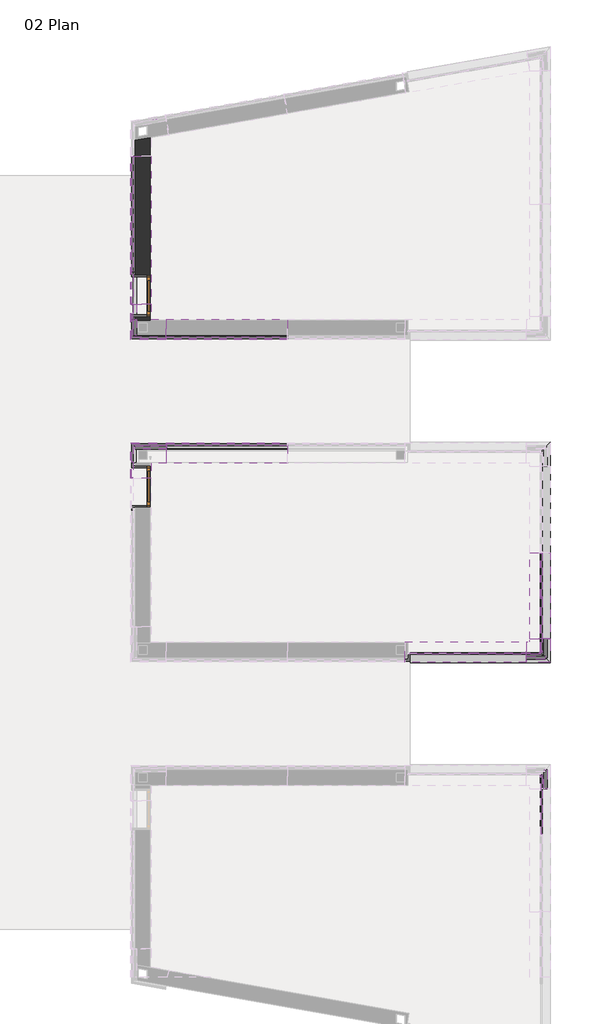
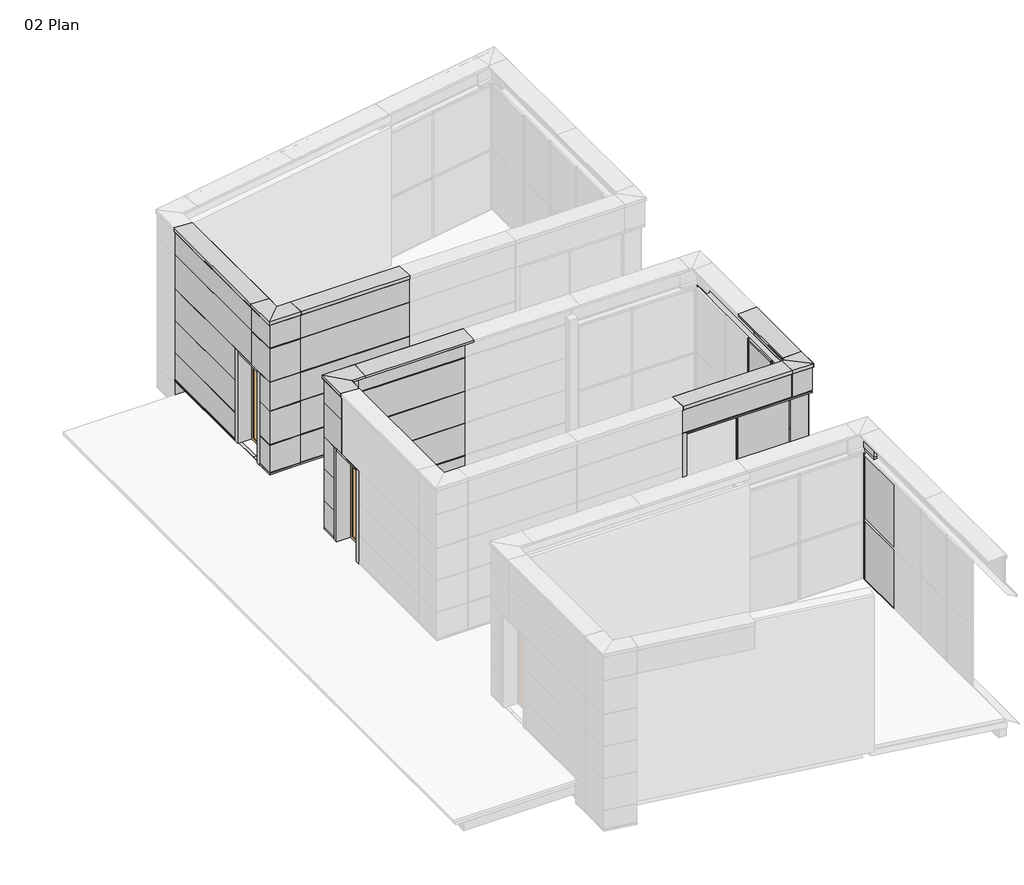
# One storey, part 3 of 6: 74 plates, 24 members, 2 doors, 1 wall.
"""IFC4 building model written with IfcOpenShell, lengths in millimetres."""

from ifc_helpers import new_model, si_unit, origin, place, context, project, spatial, faceted_brep, transform, mapped, element, save
from components import door_1100x3068mm_1200x3168mm_a6e2f689, door_1100x3068mm_1200x3168mm_20ba0fd4, rectangular_mullion_850a0757, rectangular_mullion_d40b3f67, rectangular_mullion_dec3059a, rectangular_mullion_8c95c825, rectangular_mullion_d3216087, rectangular_mullion_e5955efa, rectangular_mullion_9c751ba5, rectangular_mullion_915eebd7, rectangular_mullion_7ea7b6c0, rectangular_mullion_ccb72c30, rectangular_mullion_8513d4ac, rectangular_mullion_322f0c36, rectangular_mullion_c2dba91a, rectangular_mullion_68da8427, rectangular_mullion_97cb3080, rectangular_mullion_081bc27d, plate_0b95a8c3, plate_11fb3f57, plate_63cc7be1, plate_6f84e525, plate_a4e683b8, plate_0ee140ac, plate_9264498c, plate_13683502, plate_91b26778, plate_f3a990c7, plate_2f1254bd, plate_0a25c81b, plate_1f021189, plate_7cec9b98, plate_a03504c6, plate_4e06be92, plate_b156121b, plate_823f188f, plate_5f059f00, plate_b266ea8f, plate_59370a8b, plate_77bf08a6, plate_ef928dc7, plate_c888fad8, plate_ef003f44, plate_2ebe5be9, plate_9de24f4d, plate_d93fc1ee, plate_bb86a2eb, plate_518c333e, empty_system_panel_empty_c6afd72d, empty_system_panel_empty_630b4419, empty_system_panel_empty_4e5cc90e, empty_system_panel_empty_b9b0326a, empty_system_panel_empty_57776d45, empty_system_panel_empty_060dda74, empty_system_panel_empty_13eba526, empty_system_panel_empty_12fe3e08, empty_system_panel_empty_9adf59d3, empty_system_panel_empty_1164fc18, empty_system_panel_empty_1ef4080b, empty_system_panel_empty_53732c6d, empty_system_panel_empty_5eeb5584, empty_system_panel_empty_b2decce4, empty_system_panel_empty_352b8546, empty_system_panel_empty_87de0121, empty_system_panel_empty_e92f2667, empty_system_panel_empty_e2537cab, empty_system_panel_empty_c35a7bda, empty_system_panel_empty_f63fde6b, empty_system_panel_empty_f7b915c9, empty_system_panel_empty_2622fa27, empty_system_panel_empty_e6977389, empty_system_panel_empty_349d8383, empty_system_panel_empty_c0a390db, system_panel_1ba0b192, system_panel_15604cb6, system_panel_86827fa0, system_panel_7be301ce, system_panel_043df903, system_panel_e44423fa, system_panel_fa37fecd, system_panel_72380739

model = new_model("IFC4")

# Units and contexts
model_context = context("Model", 3, world=origin())
ifc_project = project(units=[si_unit("LENGTHUNIT", "METRE", prefix="MILLI")], contexts=[model_context])

# Site, building, storey
site = spatial("IfcSite", under=ifc_project)
building = spatial("IfcBuilding", under=site)
storey = spatial("IfcBuildingStorey", under=building, Name="02 Plan", Elevation=0.0)

# Doors
placement = place(None, origin())
door_1100x3068mm_1200x3168mm_shape = door_1100x3068mm_1200x3168mm_a6e2f689(model_context)
element("IfcDoor", 1, ObjectType="Door : 1100x3068mm (1200x3168mm)", at=placement, inside=storey, context=model_context, shape_type="MappedRepresentation", body=[
    mapped(door_1100x3068mm_1200x3168mm_shape, transform((-3774.3384937, 1935.5895435, 0.0), x_axis=(0.0, 1.0, 0.0), y_axis=(-1.0, 0.0, 0.0), z_axis=(0.0, 0.0, 1.0))),
])
door_1100x3068mm_1200x3168mm_2_shape = door_1100x3068mm_1200x3168mm_20ba0fd4(model_context)
element("IfcDoor", 2, ObjectType="Door : 1100x3068mm (1200x3168mm)", at=placement, inside=storey, context=model_context, shape_type="MappedRepresentation", body=[
    mapped(door_1100x3068mm_1200x3168mm_2_shape, transform((-3774.3384937, 7555.5895435, 0.0), x_axis=(0.0, -1.0, 0.0), y_axis=(1.0, 0.0, 0.0), z_axis=(0.0, 0.0, 1.0))),
])

# Members
rectangular_mullion_shape = rectangular_mullion_850a0757(model_context)
element("IfcMember", 3, ObjectType="Rectangular Mullion : Mullion_Curtain Wall_Generic Showcase_50x50mm", at=placement, inside=storey, context=model_context, shape_type="MappedRepresentation", body=[
    mapped(rectangular_mullion_shape, transform((8000.6615063, -2954.4104565, -100.0), x_axis=(0.0, -1.0, 0.0), y_axis=(-1.0, 0.0, 0.0), z_axis=(0.0, 0.0, -1.0))),
])
element("IfcMember", 4, ObjectType="Rectangular Mullion : Mullion_Curtain Wall_Generic Showcase_50x50mm", at=placement, inside=storey, context=model_context, shape_type="MappedRepresentation", body=[
    mapped(rectangular_mullion_shape, transform((7950.6615063, -3004.4104565, 2075.0), x_axis=(1.0, 0.0, 0.0), y_axis=(0.0, 1.0, 0.0), z_axis=(0.0, 0.0, 1.0))),
])
rectangular_mullion_2_shape = rectangular_mullion_d40b3f67(model_context)
element("IfcMember", 5, ObjectType="Rectangular Mullion : Mullion_Curtain Wall_Generic Showcase_50x50mm", at=placement, inside=storey, context=model_context, shape_type="MappedRepresentation", body=[
    mapped(rectangular_mullion_2_shape, transform((8000.6615063, -1329.4104565, -100.0), x_axis=(0.0, -1.0, 0.0), y_axis=(-1.0, 0.0, 0.0), z_axis=(0.0, 0.0, -1.0))),
])
element("IfcMember", 6, ObjectType="Rectangular Mullion : Mullion_Curtain Wall_Generic Showcase_50x50mm", at=placement, inside=storey, context=model_context, shape_type="MappedRepresentation", body=[
    mapped(rectangular_mullion_2_shape, transform((8000.6615063, -4.4104565, -100.0), x_axis=(0.0, -1.0, 0.0), y_axis=(-1.0, 0.0, 0.0), z_axis=(0.0, 0.0, -1.0))),
])
element("IfcMember", 7, ObjectType="Rectangular Mullion : Mullion_Curtain Wall_Generic Showcase_50x50mm", at=placement, inside=storey, context=model_context, shape_type="MappedRepresentation", body=[
    mapped(rectangular_mullion_2_shape, transform((5850.6615063, -3004.4104565, -100.0), x_axis=(-1.0, 0.0, 0.0), y_axis=(0.0, 1.0, 0.0), z_axis=(0.0, 0.0, -1.0))),
])
rectangular_mullion_3_shape = rectangular_mullion_dec3059a(model_context)
element("IfcMember", 8, ObjectType="Rectangular Mullion : Mullion_Curtain Wall_Generic Showcase_50x100mm", at=placement, inside=storey, context=model_context, shape_type="MappedRepresentation", body=[
    mapped(rectangular_mullion_3_shape, transform((5825.6615063, -3004.4104565, -100.0), x_axis=(0.0, 0.0, -1.0), y_axis=(0.0, 1.0, 0.0), z_axis=(1.0, 0.0, 0.0))),
])
rectangular_mullion_4_shape = rectangular_mullion_8c95c825(model_context)
element("IfcMember", 9, ObjectType="Rectangular Mullion : Mullion_Curtain Wall_Generic Showcase_50x50mm", at=placement, inside=storey, context=model_context, shape_type="MappedRepresentation", body=[
    mapped(rectangular_mullion_4_shape, transform((4100.6615063, -3004.4104565, 2075.0), x_axis=(0.0, 0.0, 1.0), y_axis=(0.0, 1.0, 0.0), z_axis=(-1.0, 0.0, 0.0))),
])
rectangular_mullion_5_shape = rectangular_mullion_d3216087(model_context)
element("IfcMember", 10, ObjectType="Rectangular Mullion : Mullion_Curtain Wall_Generic Showcase_50x50mm", at=placement, inside=storey, context=model_context, shape_type="MappedRepresentation", body=[
    mapped(rectangular_mullion_5_shape, transform((8000.6615063, -1304.4104565, 4350.0), x_axis=(0.0, 0.0, 1.0), y_axis=(-1.0, 0.0, 0.0), z_axis=(0.0, -1.0, 0.0))),
])
rectangular_mullion_6_shape = rectangular_mullion_e5955efa(model_context)
element("IfcMember", 11, ObjectType="Rectangular Mullion : Mullion_Curtain Wall_Generic Showcase_50x100mm", at=placement, inside=storey, context=model_context, shape_type="MappedRepresentation", body=[
    mapped(rectangular_mullion_6_shape, transform((8000.6615063, -29.4104565, -100.0), x_axis=(0.0, 0.0, -1.0), y_axis=(-1.0, 0.0, 0.0), z_axis=(0.0, 1.0, 0.0))),
])
rectangular_mullion_7_shape = rectangular_mullion_9c751ba5(model_context)
element("IfcMember", 12, ObjectType="Rectangular Mullion : Mullion_Curtain Wall_Generic Showcase_50x50mm", at=placement, inside=storey, context=model_context, shape_type="MappedRepresentation", body=[
    mapped(rectangular_mullion_7_shape, transform((8000.6615063, -1304.4104565, 2075.0), x_axis=(0.0, 0.0, 1.0), y_axis=(-1.0, 0.0, 0.0), z_axis=(0.0, -1.0, 0.0))),
])
rectangular_mullion_8_shape = rectangular_mullion_915eebd7(model_context)
element("IfcMember", 13, ObjectType="Rectangular Mullion : Mullion_Curtain Wall_Generic Showcase_50x50mm", at=placement, inside=storey, context=model_context, shape_type="MappedRepresentation", body=[
    mapped(rectangular_mullion_8_shape, transform((7950.6615063, -3004.4104565, 4350.0), x_axis=(1.0, 0.0, 0.0), y_axis=(0.0, 1.0, 0.0), z_axis=(0.0, 0.0, 1.0))),
])
element("IfcMember", 14, ObjectType="Rectangular Mullion : Mullion_Curtain Wall_Generic Showcase_50x50mm", at=placement, inside=storey, context=model_context, shape_type="MappedRepresentation", body=[
    mapped(rectangular_mullion_8_shape, transform((8000.6615063, -6554.4104565, 4350.0), x_axis=(0.0, 1.0, 0.0), y_axis=(-1.0, 0.0, 0.0), z_axis=(0.0, 0.0, 1.0))),
])
element("IfcMember", 15, ObjectType="Rectangular Mullion : Mullion_Curtain Wall_Generic Showcase_50x50mm", at=placement, inside=storey, context=model_context, shape_type="MappedRepresentation", body=[
    mapped(rectangular_mullion_8_shape, transform((8000.6615063, -2954.4104565, 2075.0), x_axis=(0.0, -1.0, 0.0), y_axis=(-1.0, 0.0, 0.0), z_axis=(0.0, 0.0, -1.0))),
])
rectangular_mullion_9_shape = rectangular_mullion_7ea7b6c0(model_context)
element("IfcMember", 16, ObjectType="Rectangular Mullion : Mullion_Curtain Wall_Generic Showcase_50x50mm", at=placement, inside=storey, context=model_context, shape_type="MappedRepresentation", body=[
    mapped(rectangular_mullion_9_shape, transform((8000.6615063, -1329.4104565, 2075.0), x_axis=(0.0, -1.0, 0.0), y_axis=(-1.0, 0.0, 0.0), z_axis=(0.0, 0.0, -1.0))),
])
element("IfcMember", 17, ObjectType="Rectangular Mullion : Mullion_Curtain Wall_Generic Showcase_50x50mm", at=placement, inside=storey, context=model_context, shape_type="MappedRepresentation", body=[
    mapped(rectangular_mullion_9_shape, transform((8000.6615063, -4.4104565, 2075.0), x_axis=(0.0, -1.0, 0.0), y_axis=(-1.0, 0.0, 0.0), z_axis=(0.0, 0.0, -1.0))),
])
element("IfcMember", 18, ObjectType="Rectangular Mullion : Mullion_Curtain Wall_Generic Showcase_50x50mm", at=placement, inside=storey, context=model_context, shape_type="MappedRepresentation", body=[
    mapped(rectangular_mullion_9_shape, transform((5850.6615063, -3004.4104565, 2075.0), x_axis=(-1.0, 0.0, 0.0), y_axis=(0.0, 1.0, 0.0), z_axis=(0.0, 0.0, -1.0))),
])
rectangular_mullion_10_shape = rectangular_mullion_ccb72c30(model_context)
element("IfcMember", 19, ObjectType="Rectangular Mullion : Mullion_Curtain Wall_Generic Showcase_50x50mm", at=placement, inside=storey, context=model_context, shape_type="MappedRepresentation", body=[
    mapped(rectangular_mullion_10_shape, transform((5875.6615063, -3004.4104565, 4350.0), x_axis=(0.0, 0.0, 1.0), y_axis=(0.0, 1.0, 0.0), z_axis=(-1.0, 0.0, 0.0))),
])
rectangular_mullion_11_shape = rectangular_mullion_8513d4ac(model_context)
element("IfcMember", 20, ObjectType="Rectangular Mullion : Mullion_Curtain Wall_Generic Showcase_50x100mm", at=placement, inside=storey, context=model_context, shape_type="MappedRepresentation", body=[
    mapped(rectangular_mullion_11_shape, transform((7900.6615063, -3004.4104565, -100.0), x_axis=(0.0, 0.0, -1.0), y_axis=(0.0, 1.0, 0.0), z_axis=(1.0, 0.0, 0.0))),
])
rectangular_mullion_12_shape = rectangular_mullion_322f0c36(model_context)
element("IfcMember", 21, ObjectType="Rectangular Mullion : Mullion_Curtain Wall_Generic Showcase_50x50mm", at=placement, inside=storey, context=model_context, shape_type="MappedRepresentation", body=[
    mapped(rectangular_mullion_12_shape, transform((5875.6615063, -3004.4104565, 2075.0), x_axis=(0.0, 0.0, 1.0), y_axis=(0.0, 1.0, 0.0), z_axis=(-1.0, 0.0, 0.0))),
])
element("IfcMember", 22, ObjectType="Rectangular Mullion : Mullion_Curtain Wall_Generic Showcase_50x50mm", at=placement, inside=storey, context=model_context, shape_type="MappedRepresentation", body=[
    mapped(rectangular_mullion_shape, transform((8000.6615063, -6554.4104565, 2075.0), x_axis=(0.0, 1.0, 0.0), y_axis=(-1.0, 0.0, 0.0), z_axis=(0.0, 0.0, 1.0))),
])
rectangular_mullion_13_shape = rectangular_mullion_c2dba91a(model_context)
element("IfcMember", 23, ObjectType="Rectangular Mullion : Mullion_Curtain Wall_Generic Showcase_50x100mm", at=placement, inside=storey, context=model_context, shape_type="MappedRepresentation", body=[
    mapped(rectangular_mullion_13_shape, transform((8000.6615063, -6604.4104565, -100.0), x_axis=(0.0, 0.0, -1.0), y_axis=(-1.0, 0.0, 0.0), z_axis=(0.0, 1.0, 0.0))),
])
rectangular_mullion_14_shape = rectangular_mullion_68da8427(model_context)
element("IfcMember", 24, ObjectType="Rectangular Mullion : Mullion_Curtain Wall_Generic Showcase_50x50mm", at=placement, inside=storey, context=model_context, shape_type="MappedRepresentation", body=[
    mapped(rectangular_mullion_14_shape, transform((8000.6615063, -2904.4104565, 4350.0), x_axis=(0.0, 0.0, 1.0), y_axis=(-1.0, 0.0, 0.0), z_axis=(0.0, -1.0, 0.0))),
])
rectangular_mullion_15_shape = rectangular_mullion_97cb3080(model_context)
element("IfcMember", 25, ObjectType="Rectangular Mullion : Mullion_Curtain Wall_Generic Showcase_50x100mm", at=placement, inside=storey, context=model_context, shape_type="MappedRepresentation", body=[
    mapped(rectangular_mullion_15_shape, transform((8000.6615063, -1354.4104565, -100.0), x_axis=(0.0, 0.0, -1.0), y_axis=(-1.0, 0.0, 0.0), z_axis=(0.0, 1.0, 0.0))),
])
rectangular_mullion_16_shape = rectangular_mullion_081bc27d(model_context)
element("IfcMember", 26, ObjectType="Rectangular Mullion : Mullion_Curtain Wall_Generic Showcase_50x50mm", at=placement, inside=storey, context=model_context, shape_type="MappedRepresentation", body=[
    mapped(rectangular_mullion_16_shape, transform((8000.6615063, -2904.4104565, 2075.0), x_axis=(0.0, 0.0, 1.0), y_axis=(-1.0, 0.0, 0.0), z_axis=(0.0, -1.0, 0.0))),
])

# Plates
plate_shape = plate_0b95a8c3(model_context)
element("IfcPlate", 27, ObjectType="Trimo_Qbiss Screen_L Corner Panel-HORIZONTAL : HR - B", at=placement, inside=storey, context=model_context, shape_type="MappedRepresentation", body=[
    mapped(plate_shape, transform((-3999.3384937, 2869.3395435, 1012.5), x_axis=(0.0, 1.0, 0.0), y_axis=(-1.0, 0.0, 0.0), z_axis=(0.0, 0.0, 1.0))),
])
element("IfcPlate", 28, ObjectType="Trimo_Qbiss Screen_L Corner Panel-HORIZONTAL : HR - B", at=placement, inside=storey, context=model_context, shape_type="MappedRepresentation", body=[
    mapped(plate_shape, transform((-3999.3384937, 2869.3395435, 2125.0), x_axis=(0.0, 1.0, 0.0), y_axis=(-1.0, 0.0, 0.0), z_axis=(0.0, 0.0, 1.0))),
])
plate_2_shape = plate_11fb3f57(model_context)
element("IfcPlate", 29, ObjectType="Trimo_Qbiss Screen_L Corner Panel-HORIZONTAL : HR - B", at=placement, inside=storey, context=model_context, shape_type="MappedRepresentation", body=[
    mapped(plate_2_shape, transform((8100.6615063, -2823.1604565, 4410.0), x_axis=(0.0, -1.0, 0.0), y_axis=(1.0, 0.0, 0.0), z_axis=(0.0, 0.0, 1.0))),
])
plate_3_shape = plate_63cc7be1(model_context)
element("IfcPlate", 30, ObjectType="Trimo_Qbiss Screen_L Corner Panel-HORIZONTAL : HR - B", at=placement, inside=storey, context=model_context, shape_type="MappedRepresentation", body=[
    mapped(plate_3_shape, transform((-3999.3384937, 2639.3395435, 4410.0), x_axis=(0.0, 1.0, 0.0), y_axis=(-1.0, 0.0, 0.0), z_axis=(0.0, 0.0, 1.0))),
])
plate_4_shape = plate_6f84e525(model_context)
element("IfcPlate", 31, ObjectType="Trimo_Qbiss Screen_L Corner Panel-HORIZONTAL : HR - B", at=placement, inside=storey, context=model_context, shape_type="MappedRepresentation", body=[
    mapped(plate_4_shape, transform((-3999.3384937, 2639.3395435, 3237.5), x_axis=(0.0, 1.0, 0.0), y_axis=(-1.0, 0.0, 0.0), z_axis=(0.0, 0.0, 1.0))),
])
element("IfcPlate", 32, ObjectType="Trimo_Qbiss Screen_L Corner Panel-HORIZONTAL : HR - B", at=placement, inside=storey, context=model_context, shape_type="MappedRepresentation", body=[
    mapped(plate_4_shape, transform((-3543.0884937, 6395.5895435, 3237.5), x_axis=(-1.0, 0.0, 0.0), y_axis=(0.0, -1.0, 0.0), z_axis=(0.0, 0.0, 1.0))),
])
plate_5_shape = plate_a4e683b8(model_context)
element("IfcPlate", 33, ObjectType="Trimo_Qbiss Screen_L Corner Panel-HORIZONTAL : HR - B", at=placement, inside=storey, context=model_context, shape_type="MappedRepresentation", body=[
    mapped(plate_5_shape, transform((-3999.3384937, 2869.3395435, 100.0), x_axis=(0.0, 1.0, 0.0), y_axis=(-1.0, 0.0, 0.0), z_axis=(0.0, 0.0, 1.0))),
])
element("IfcPlate", 34, ObjectType="Trimo_Qbiss Screen_L Corner Panel-HORIZONTAL : HR - B", at=placement, inside=storey, context=model_context, shape_type="MappedRepresentation", body=[
    mapped(plate_3_shape, transform((-3543.0884937, 6395.5895435, 4410.0), x_axis=(-1.0, 0.0, 0.0), y_axis=(0.0, -1.0, 0.0), z_axis=(0.0, 0.0, 1.0))),
])
plate_6_shape = plate_0ee140ac(model_context)
element("IfcPlate", 35, ObjectType="Trimo_Qbiss Screen_L Corner Panel-HORIZONTAL : HR - B", at=placement, inside=storey, context=model_context, shape_type="MappedRepresentation", body=[
    mapped(plate_6_shape, transform((-3543.0884937, 6395.5895435, 2240.0), x_axis=(-1.0, 0.0, 0.0), y_axis=(0.0, -1.0, 0.0), z_axis=(0.0, 0.0, 1.0))),
])
plate_7_shape = plate_9264498c(model_context)
element("IfcPlate", 36, ObjectType="Trimo_Qbiss Screen_L Corner Panel-HORIZONTAL : HR - B", at=placement, inside=storey, context=model_context, shape_type="MappedRepresentation", body=[
    mapped(plate_7_shape, transform((-3543.0884937, 6395.5895435, 1070.0), x_axis=(-1.0, 0.0, 0.0), y_axis=(0.0, -1.0, 0.0), z_axis=(0.0, 0.0, 1.0))),
])
plate_8_shape = plate_13683502(model_context)
element("IfcPlate", 37, ObjectType="Trimo_Qbiss Screen_L Corner Panel-HORIZONTAL : HR - B", at=placement, inside=storey, context=model_context, shape_type="MappedRepresentation", body=[
    mapped(plate_8_shape, transform((-3543.0884937, 6395.5895435, 100.0), x_axis=(-1.0, 0.0, 0.0), y_axis=(0.0, -1.0, 0.0), z_axis=(0.0, 0.0, 1.0))),
])
plate_9_shape = plate_91b26778(model_context)
element("IfcPlate", 38, ObjectType="Trimo_Qbiss Screen_L Corner Panel-HORIZONTAL : HR - B", at=placement, inside=storey, context=model_context, shape_type="MappedRepresentation", body=[
    mapped(plate_9_shape, transform((8100.6615063, -2823.1604565, -750.0), x_axis=(0.0, -1.0, 0.0), y_axis=(1.0, 0.0, 0.0), z_axis=(0.0, 0.0, 1.0))),
])
plate_10_shape = plate_f3a990c7(model_context)
element("IfcPlate", 39, ObjectType="Trimo_Qbiss Screen_Normal Panel-HORIZONTAL : HR - B", at=placement, inside=storey, context=model_context, shape_type="MappedRepresentation", body=[
    mapped(plate_10_shape, transform((-3999.3384937, 11355.7945251, -750.0), x_axis=(0.0, 1.0, 0.0), y_axis=(-1.0, 0.0, 0.0), z_axis=(0.0, 0.0, 1.0))),
])
plate_11_shape = plate_2f1254bd(model_context)
element("IfcPlate", 40, ObjectType="Trimo_Qbiss Screen_Normal Panel-HORIZONTAL : HR - B", at=placement, inside=storey, context=model_context, shape_type="MappedRepresentation", body=[
    mapped(plate_11_shape, transform((-1293.0884937, 3095.5895435, 4410.0), x_axis=(1.0, 0.0, 0.0), y_axis=(0.0, 1.0, 0.0), z_axis=(0.0, 0.0, 1.0))),
])
plate_12_shape = plate_0a25c81b(model_context)
element("IfcPlate", 41, ObjectType="Trimo_Qbiss Screen_Normal Panel-HORIZONTAL : HR - B", at=placement, inside=storey, context=model_context, shape_type="MappedRepresentation", body=[
    mapped(plate_12_shape, transform((-1293.0884937, 3095.5895435, 100.0), x_axis=(1.0, 0.0, 0.0), y_axis=(0.0, 1.0, 0.0), z_axis=(0.0, 0.0, 1.0))),
])
plate_13_shape = plate_1f021189(model_context)
element("IfcPlate", 42, ObjectType="Trimo_Qbiss Screen_Normal Panel-HORIZONTAL : HR - B", at=placement, inside=storey, context=model_context, shape_type="MappedRepresentation", body=[
    mapped(plate_13_shape, transform((-1299.3384937, 6395.5895435, 4410.0), x_axis=(-1.0, 0.0, 0.0), y_axis=(0.0, -1.0, 0.0), z_axis=(0.0, 0.0, 1.0))),
])
plate_14_shape = plate_7cec9b98(model_context)
element("IfcPlate", 43, ObjectType="Trimo_Qbiss Screen_Normal Panel-HORIZONTAL : HR - B", at=placement, inside=storey, context=model_context, shape_type="MappedRepresentation", body=[
    mapped(plate_14_shape, transform((-1299.3384937, 6395.5895435, 3237.5), x_axis=(-1.0, 0.0, 0.0), y_axis=(0.0, -1.0, 0.0), z_axis=(0.0, 0.0, 1.0))),
])
plate_15_shape = plate_a03504c6(model_context)
element("IfcPlate", 44, ObjectType="Trimo_Qbiss Screen_Normal Panel-HORIZONTAL : HR - B", at=placement, inside=storey, context=model_context, shape_type="MappedRepresentation", body=[
    mapped(plate_15_shape, transform((-1293.0884937, 3095.5895435, 2125.0), x_axis=(1.0, 0.0, 0.0), y_axis=(0.0, 1.0, 0.0), z_axis=(0.0, 0.0, 1.0))),
])
element("IfcPlate", 45, ObjectType="Trimo_Qbiss Screen_Normal Panel-HORIZONTAL : HR - B", at=placement, inside=storey, context=model_context, shape_type="MappedRepresentation", body=[
    mapped(plate_15_shape, transform((-1293.0884937, 3095.5895435, 1012.5), x_axis=(1.0, 0.0, 0.0), y_axis=(0.0, 1.0, 0.0), z_axis=(0.0, 0.0, 1.0))),
])
plate_16_shape = plate_4e06be92(model_context)
element("IfcPlate", 46, ObjectType="Trimo_Qbiss Screen_Normal Panel-HORIZONTAL : HR - B", at=placement, inside=storey, context=model_context, shape_type="MappedRepresentation", body=[
    mapped(plate_16_shape, transform((-1293.0884937, 3095.5895435, 3237.5), x_axis=(1.0, 0.0, 0.0), y_axis=(0.0, 1.0, 0.0), z_axis=(0.0, 0.0, 1.0))),
])
plate_17_shape = plate_b156121b(model_context)
element("IfcPlate", 47, ObjectType="Trimo_Qbiss Screen_Normal Panel-HORIZONTAL : HR - B", at=placement, inside=storey, context=model_context, shape_type="MappedRepresentation", body=[
    mapped(plate_17_shape, transform((8100.6615063, -1273.1604565, -750.0), x_axis=(0.0, -1.0, 0.0), y_axis=(1.0, 0.0, 0.0), z_axis=(0.0, 0.0, 1.0))),
])
plate_18_shape = plate_823f188f(model_context)
element("IfcPlate", 48, ObjectType="Trimo_Qbiss Screen_Normal Panel-HORIZONTAL : HR - B", at=placement, inside=storey, context=model_context, shape_type="MappedRepresentation", body=[
    mapped(plate_18_shape, transform((8100.6615063, -1273.1604565, 4410.0), x_axis=(0.0, -1.0, 0.0), y_axis=(1.0, 0.0, 0.0), z_axis=(0.0, 0.0, 1.0))),
])
plate_19_shape = plate_5f059f00(model_context)
element("IfcPlate", 49, ObjectType="Trimo_Qbiss Screen_Normal Panel-HORIZONTAL : HR - B", at=placement, inside=storey, context=model_context, shape_type="MappedRepresentation", body=[
    mapped(plate_19_shape, transform((-3999.3384937, 9965.0445251, 100.0), x_axis=(0.0, 1.0, 0.0), y_axis=(-1.0, 0.0, 0.0), z_axis=(0.0, 0.0, 1.0))),
])
plate_20_shape = plate_b266ea8f(model_context)
element("IfcPlate", 50, ObjectType="Trimo_Qbiss Screen_Normal Panel-HORIZONTAL : HR - B", at=placement, inside=storey, context=model_context, shape_type="MappedRepresentation", body=[
    mapped(plate_20_shape, transform((-3999.3384937, 9965.0445251, 2125.0), x_axis=(0.0, 1.0, 0.0), y_axis=(-1.0, 0.0, 0.0), z_axis=(0.0, 0.0, 1.0))),
])
element("IfcPlate", 51, ObjectType="Trimo_Qbiss Screen_Normal Panel-HORIZONTAL : HR - B", at=placement, inside=storey, context=model_context, shape_type="MappedRepresentation", body=[
    mapped(plate_20_shape, transform((-3999.3384937, 9965.0445251, 1012.5), x_axis=(0.0, 1.0, 0.0), y_axis=(-1.0, 0.0, 0.0), z_axis=(0.0, 0.0, 1.0))),
])
plate_21_shape = plate_59370a8b(model_context)
element("IfcPlate", 52, ObjectType="Trimo_Qbiss Screen_Normal Panel-HORIZONTAL : HR - B", at=placement, inside=storey, context=model_context, shape_type="MappedRepresentation", body=[
    mapped(plate_21_shape, transform((-3999.3384937, 9487.5445251, 3237.5), x_axis=(0.0, 1.0, 0.0), y_axis=(-1.0, 0.0, 0.0), z_axis=(0.0, 0.0, 1.0))),
])
plate_22_shape = plate_77bf08a6(model_context)
element("IfcPlate", 53, ObjectType="Trimo_Qbiss Screen_Normal Panel-HORIZONTAL : HR - B", at=placement, inside=storey, context=model_context, shape_type="MappedRepresentation", body=[
    mapped(plate_22_shape, transform((-3999.3384937, 9487.5445251, 4410.0), x_axis=(0.0, 1.0, 0.0), y_axis=(-1.0, 0.0, 0.0), z_axis=(0.0, 0.0, 1.0))),
])
plate_23_shape = plate_ef928dc7(model_context)
element("IfcPlate", 54, ObjectType="Trimo_Qbiss Screen_Normal Panel-HORIZONTAL : HR - B", at=placement, inside=storey, context=model_context, shape_type="MappedRepresentation", body=[
    mapped(plate_23_shape, transform((-1299.3384937, 6395.5895435, 100.0), x_axis=(-1.0, 0.0, 0.0), y_axis=(0.0, -1.0, 0.0), z_axis=(0.0, 0.0, 1.0))),
])
plate_24_shape = plate_c888fad8(model_context)
element("IfcPlate", 55, ObjectType="Trimo_Qbiss Screen_Normal Panel-HORIZONTAL : HR - B", at=placement, inside=storey, context=model_context, shape_type="MappedRepresentation", body=[
    mapped(plate_24_shape, transform((-1299.3384937, 6395.5895435, 1070.0), x_axis=(-1.0, 0.0, 0.0), y_axis=(0.0, -1.0, 0.0), z_axis=(0.0, 0.0, 1.0))),
])
plate_25_shape = plate_ef003f44(model_context)
element("IfcPlate", 56, ObjectType="Trimo_Qbiss Screen_Normal Panel-HORIZONTAL : HR - B", at=placement, inside=storey, context=model_context, shape_type="MappedRepresentation", body=[
    mapped(plate_25_shape, transform((-1299.3384937, 6395.5895435, 2240.0), x_axis=(-1.0, 0.0, 0.0), y_axis=(0.0, -1.0, 0.0), z_axis=(0.0, 0.0, 1.0))),
])
plate_26_shape = plate_2ebe5be9(model_context)
element("IfcPlate", 57, ObjectType="Trimo_Qbiss Screen_Normal Panel-HORIZONTAL : HR - B", at=placement, inside=storey, context=model_context, shape_type="MappedRepresentation", body=[
    mapped(plate_26_shape, transform((5745.6615063, -3104.4104565, -750.0), x_axis=(-1.0, 0.0, 0.0), y_axis=(0.0, -1.0, 0.0), z_axis=(0.0, 0.0, 1.0))),
])
plate_27_shape = plate_9de24f4d(model_context)
element("IfcPlate", 58, ObjectType="Trimo_Qbiss Screen_Normal Panel-HORIZONTAL : HR - B", at=placement, inside=storey, context=model_context, shape_type="MappedRepresentation", body=[
    mapped(plate_27_shape, transform((5745.6615063, -3104.4104565, 4410.0), x_axis=(-1.0, 0.0, 0.0), y_axis=(0.0, -1.0, 0.0), z_axis=(0.0, 0.0, 1.0))),
])
plate_28_shape = plate_d93fc1ee(model_context)
element("IfcPlate", 59, ObjectType="Trimo_Qbiss Screen_Wall Opening Trims-HORIZONTAL : HR - B", at=placement, inside=storey, context=model_context, shape_type="MappedRepresentation", body=[
    mapped(plate_28_shape, transform((-3999.3384937, 1935.5895435, 0.0), x_axis=(0.0, 1.0, 0.0), y_axis=(-1.0, 0.0, 0.0), z_axis=(0.0, 0.0, 1.0))),
])
plate_29_shape = plate_bb86a2eb(model_context)
element("IfcPlate", 60, ObjectType="Trimo_Qbiss Screen_Wall Opening Trims-HORIZONTAL : HR - B", at=placement, inside=storey, context=model_context, shape_type="MappedRepresentation", body=[
    mapped(plate_29_shape, transform((5745.6615063, -3104.4104565, -100.0), x_axis=(-1.0, 0.0, 0.0), y_axis=(0.0, -1.0, 0.0), z_axis=(0.0, 0.0, 1.0))),
])
plate_30_shape = plate_518c333e(model_context)
element("IfcPlate", 61, ObjectType="Trimo_Qbiss Screen_Wall Opening Trims-HORIZONTAL : HR - B", at=placement, inside=storey, context=model_context, shape_type="MappedRepresentation", body=[
    mapped(plate_30_shape, transform((8100.6615063, -4.4104565, -100.0), x_axis=(0.0, -1.0, 0.0), y_axis=(1.0, 0.0, 0.0), z_axis=(0.0, 0.0, 1.0))),
])
element("IfcPlate", 62, ObjectType="Trimo_Qbiss Screen_Wall Opening Trims-HORIZONTAL : HR - B", at=placement, inside=storey, context=model_context, shape_type="MappedRepresentation", body=[
    mapped(plate_28_shape, transform((-3999.3384937, 7555.5895435, 0.0), x_axis=(0.0, 1.0, 0.0), y_axis=(-1.0, 0.0, 0.0), z_axis=(0.0, 0.0, 1.0))),
])
empty_system_panel_empty_shape = empty_system_panel_empty_c6afd72d(model_context)
element("IfcPlate", 63, ObjectType="Empty System Panel : Empty", at=placement, inside=storey, context=model_context, shape_type="MappedRepresentation", body=[
    mapped(empty_system_panel_empty_shape, transform((-3542.0971598, 12676.2135274, -100.0), x_axis=(0.9848077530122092, 0.17364817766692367, 0.0), y_axis=(-0.17364817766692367, 0.9848077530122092, 0.0), z_axis=(0.0, 0.0, 1.0))),
])
empty_system_panel_empty_2_shape = empty_system_panel_empty_630b4419(model_context)
element("IfcPlate", 64, ObjectType="Empty System Panel : Empty", at=placement, inside=storey, context=model_context, shape_type="MappedRepresentation", body=[
    mapped(empty_system_panel_empty_2_shape, transform((-3543.0884937, 6395.5895435, -750.0), x_axis=(-1.0, 0.0, 0.0), y_axis=(0.0, -1.0, 0.0), z_axis=(0.0, 0.0, 1.0))),
])
empty_system_panel_empty_3_shape = empty_system_panel_empty_4e5cc90e(model_context)
element("IfcPlate", 65, ObjectType="Empty System Panel : Empty", at=placement, inside=storey, context=model_context, shape_type="MappedRepresentation", body=[
    mapped(empty_system_panel_empty_3_shape, transform((7819.4115063, -3104.4104565, -750.0), x_axis=(-1.0, 0.0, 0.0), y_axis=(0.0, -1.0, 0.0), z_axis=(0.0, 0.0, 1.0))),
])
element("IfcPlate", 66, ObjectType="Empty System Panel : Empty", at=placement, inside=storey, context=model_context, shape_type="MappedRepresentation", body=[
    mapped(empty_system_panel_empty_3_shape, transform((8100.6615063, -6685.6604565, -750.0), x_axis=(0.0, -1.0, 0.0), y_axis=(1.0, 0.0, 0.0), z_axis=(0.0, 0.0, 1.0))),
])
empty_system_panel_empty_4_shape = empty_system_panel_empty_b9b0326a(model_context)
element("IfcPlate", 67, ObjectType="Empty System Panel : Empty", at=placement, inside=storey, context=model_context, shape_type="MappedRepresentation", body=[
    mapped(empty_system_panel_empty_4_shape, transform((8100.6615063, -6685.6604565, -100.0), x_axis=(0.0, -1.0, 0.0), y_axis=(1.0, 0.0, 0.0), z_axis=(0.0, 0.0, 1.0))),
])
element("IfcPlate", 68, ObjectType="Empty System Panel : Empty", at=placement, inside=storey, context=model_context, shape_type="MappedRepresentation", body=[
    mapped(empty_system_panel_empty_4_shape, transform((8100.6615063, -2823.1604565, -100.0), x_axis=(0.0, -1.0, 0.0), y_axis=(1.0, 0.0, 0.0), z_axis=(0.0, 0.0, 1.0))),
])
empty_system_panel_empty_5_shape = empty_system_panel_empty_57776d45(model_context)
element("IfcPlate", 69, ObjectType="Empty System Panel : Empty", at=placement, inside=storey, context=model_context, shape_type="MappedRepresentation", body=[
    mapped(empty_system_panel_empty_5_shape, transform((8100.6615063, -6685.6604565, 4410.0), x_axis=(0.0, -1.0, 0.0), y_axis=(1.0, 0.0, 0.0), z_axis=(0.0, 0.0, 1.0))),
])
element("IfcPlate", 70, ObjectType="Empty System Panel : Empty", at=placement, inside=storey, context=model_context, shape_type="MappedRepresentation", body=[
    mapped(empty_system_panel_empty_5_shape, transform((7819.4115063, -3104.4104565, 4410.0), x_axis=(-1.0, 0.0, 0.0), y_axis=(0.0, -1.0, 0.0), z_axis=(0.0, 0.0, 1.0))),
])
empty_system_panel_empty_6_shape = empty_system_panel_empty_060dda74(model_context)
element("IfcPlate", 71, ObjectType="Empty System Panel : Empty", at=placement, inside=storey, context=model_context, shape_type="MappedRepresentation", body=[
    mapped(empty_system_panel_empty_6_shape, transform((-3542.0971598, 12676.2135274, 4410.0), x_axis=(0.9848077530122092, 0.17364817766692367, 0.0), y_axis=(-0.17364817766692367, 0.9848077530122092, 0.0), z_axis=(0.0, 0.0, 1.0))),
])
empty_system_panel_empty_7_shape = empty_system_panel_empty_13eba526(model_context)
element("IfcPlate", 72, ObjectType="Empty System Panel : Empty", at=placement, inside=storey, context=model_context, shape_type="MappedRepresentation", body=[
    mapped(empty_system_panel_empty_7_shape, transform((-3542.0971598, 12676.2135274, 3237.5), x_axis=(0.9848077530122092, 0.17364817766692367, 0.0), y_axis=(-0.17364817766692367, 0.9848077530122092, 0.0), z_axis=(0.0, 0.0, 1.0))),
])
empty_system_panel_empty_8_shape = empty_system_panel_empty_12fe3e08(model_context)
element("IfcPlate", 73, ObjectType="Empty System Panel : Empty", at=placement, inside=storey, context=model_context, shape_type="MappedRepresentation", body=[
    mapped(empty_system_panel_empty_8_shape, transform((-3536.8384937, 3095.5895435, -750.0), x_axis=(1.0, 0.0, 0.0), y_axis=(0.0, 1.0, 0.0), z_axis=(0.0, 0.0, 1.0))),
])
empty_system_panel_empty_9_shape = empty_system_panel_empty_9adf59d3(model_context)
element("IfcPlate", 74, ObjectType="Empty System Panel : Empty", at=placement, inside=storey, context=model_context, shape_type="MappedRepresentation", body=[
    mapped(empty_system_panel_empty_9_shape, transform((-3536.8384937, 3095.5895435, 4410.0), x_axis=(1.0, 0.0, 0.0), y_axis=(0.0, 1.0, 0.0), z_axis=(0.0, 0.0, 1.0))),
])
empty_system_panel_empty_10_shape = empty_system_panel_empty_1164fc18(model_context)
element("IfcPlate", 75, ObjectType="Empty System Panel : Empty", at=placement, inside=storey, context=model_context, shape_type="MappedRepresentation", body=[
    mapped(empty_system_panel_empty_10_shape, transform((-3536.8384937, 3095.5895435, 100.0), x_axis=(1.0, 0.0, 0.0), y_axis=(0.0, 1.0, 0.0), z_axis=(0.0, 0.0, 1.0))),
])
empty_system_panel_empty_11_shape = empty_system_panel_empty_1ef4080b(model_context)
element("IfcPlate", 76, ObjectType="Empty System Panel : Empty", at=placement, inside=storey, context=model_context, shape_type="MappedRepresentation", body=[
    mapped(empty_system_panel_empty_11_shape, transform((-3536.8384937, 3095.5895435, 3237.5), x_axis=(1.0, 0.0, 0.0), y_axis=(0.0, 1.0, 0.0), z_axis=(0.0, 0.0, 1.0))),
])
empty_system_panel_empty_12_shape = empty_system_panel_empty_53732c6d(model_context)
element("IfcPlate", 77, ObjectType="Empty System Panel : Empty", at=placement, inside=storey, context=model_context, shape_type="MappedRepresentation", body=[
    mapped(empty_system_panel_empty_12_shape, transform((-3536.8384937, 3095.5895435, 2125.0), x_axis=(1.0, 0.0, 0.0), y_axis=(0.0, 1.0, 0.0), z_axis=(0.0, 0.0, 1.0))),
])
element("IfcPlate", 78, ObjectType="Empty System Panel : Empty", at=placement, inside=storey, context=model_context, shape_type="MappedRepresentation", body=[
    mapped(empty_system_panel_empty_12_shape, transform((-3536.8384937, 3095.5895435, 1012.5), x_axis=(1.0, 0.0, 0.0), y_axis=(0.0, 1.0, 0.0), z_axis=(0.0, 0.0, 1.0))),
])
empty_system_panel_empty_13_shape = empty_system_panel_empty_5eeb5584(model_context)
element("IfcPlate", 79, ObjectType="Empty System Panel : Empty", at=placement, inside=storey, context=model_context, shape_type="MappedRepresentation", body=[
    mapped(empty_system_panel_empty_13_shape, transform((7819.4115063, -3104.4104565, -100.0), x_axis=(-1.0, 0.0, 0.0), y_axis=(0.0, -1.0, 0.0), z_axis=(0.0, 0.0, 1.0))),
])
empty_system_panel_empty_14_shape = empty_system_panel_empty_b2decce4(model_context)
element("IfcPlate", 80, ObjectType="Empty System Panel : Empty", at=placement, inside=storey, context=model_context, shape_type="MappedRepresentation", body=[
    mapped(empty_system_panel_empty_14_shape, transform((-1293.0884937, 3095.5895435, -750.0), x_axis=(1.0, 0.0, 0.0), y_axis=(0.0, 1.0, 0.0), z_axis=(0.0, 0.0, 1.0))),
])
empty_system_panel_empty_15_shape = empty_system_panel_empty_352b8546(model_context)
element("IfcPlate", 81, ObjectType="Empty System Panel : Empty", at=placement, inside=storey, context=model_context, shape_type="MappedRepresentation", body=[
    mapped(empty_system_panel_empty_15_shape, transform((-3999.3384937, 6621.8395435, 4410.0), x_axis=(0.0, 1.0, 0.0), y_axis=(-1.0, 0.0, 0.0), z_axis=(0.0, 0.0, 1.0))),
])
empty_system_panel_empty_16_shape = empty_system_panel_empty_87de0121(model_context)
element("IfcPlate", 82, ObjectType="Empty System Panel : Empty", at=placement, inside=storey, context=model_context, shape_type="MappedRepresentation", body=[
    mapped(empty_system_panel_empty_16_shape, transform((-3999.3384937, 7078.0895435, 4410.0), x_axis=(0.0, 1.0, 0.0), y_axis=(-1.0, 0.0, 0.0), z_axis=(0.0, 0.0, 1.0))),
])
empty_system_panel_empty_17_shape = empty_system_panel_empty_e92f2667(model_context)
element("IfcPlate", 83, ObjectType="Empty System Panel : Empty", at=placement, inside=storey, context=model_context, shape_type="MappedRepresentation", body=[
    mapped(empty_system_panel_empty_17_shape, transform((-3999.3384937, 6621.8395435, -750.0), x_axis=(0.0, 1.0, 0.0), y_axis=(-1.0, 0.0, 0.0), z_axis=(0.0, 0.0, 1.0))),
])
empty_system_panel_empty_18_shape = empty_system_panel_empty_e2537cab(model_context)
element("IfcPlate", 84, ObjectType="Empty System Panel : Empty", at=placement, inside=storey, context=model_context, shape_type="MappedRepresentation", body=[
    mapped(empty_system_panel_empty_18_shape, transform((-3999.3384937, 7555.5895435, -750.0), x_axis=(0.0, 1.0, 0.0), y_axis=(-1.0, 0.0, 0.0), z_axis=(0.0, 0.0, 1.0))),
])
empty_system_panel_empty_19_shape = empty_system_panel_empty_c35a7bda(model_context)
element("IfcPlate", 85, ObjectType="Empty System Panel : Empty", at=placement, inside=storey, context=model_context, shape_type="MappedRepresentation", body=[
    mapped(empty_system_panel_empty_19_shape, transform((-3999.3384937, 9653.8395435, -750.0), x_axis=(0.0, 1.0, 0.0), y_axis=(-1.0, 0.0, 0.0), z_axis=(0.0, 0.0, 1.0))),
])
empty_system_panel_empty_20_shape = empty_system_panel_empty_f63fde6b(model_context)
element("IfcPlate", 86, ObjectType="Empty System Panel : Empty", at=placement, inside=storey, context=model_context, shape_type="MappedRepresentation", body=[
    mapped(empty_system_panel_empty_20_shape, transform((-3999.3384937, 6621.8395435, 3237.5), x_axis=(0.0, 1.0, 0.0), y_axis=(-1.0, 0.0, 0.0), z_axis=(0.0, 0.0, 1.0))),
])
empty_system_panel_empty_21_shape = empty_system_panel_empty_f7b915c9(model_context)
element("IfcPlate", 87, ObjectType="Empty System Panel : Empty", at=placement, inside=storey, context=model_context, shape_type="MappedRepresentation", body=[
    mapped(empty_system_panel_empty_21_shape, transform((-3999.3384937, 7078.0895435, 3237.5), x_axis=(0.0, 1.0, 0.0), y_axis=(-1.0, 0.0, 0.0), z_axis=(0.0, 0.0, 1.0))),
])
empty_system_panel_empty_22_shape = empty_system_panel_empty_2622fa27(model_context)
element("IfcPlate", 88, ObjectType="Empty System Panel : Empty", at=placement, inside=storey, context=model_context, shape_type="MappedRepresentation", body=[
    mapped(empty_system_panel_empty_22_shape, transform((-3999.3384937, 6621.8395435, 100.0), x_axis=(0.0, 1.0, 0.0), y_axis=(-1.0, 0.0, 0.0), z_axis=(0.0, 0.0, 1.0))),
])
empty_system_panel_empty_23_shape = empty_system_panel_empty_e6977389(model_context)
element("IfcPlate", 89, ObjectType="Empty System Panel : Empty", at=placement, inside=storey, context=model_context, shape_type="MappedRepresentation", body=[
    mapped(empty_system_panel_empty_23_shape, transform((-3999.3384937, 6621.8395435, 2125.0), x_axis=(0.0, 1.0, 0.0), y_axis=(-1.0, 0.0, 0.0), z_axis=(0.0, 0.0, 1.0))),
])
element("IfcPlate", 90, ObjectType="Empty System Panel : Empty", at=placement, inside=storey, context=model_context, shape_type="MappedRepresentation", body=[
    mapped(empty_system_panel_empty_23_shape, transform((-3999.3384937, 6621.8395435, 1012.5), x_axis=(0.0, 1.0, 0.0), y_axis=(-1.0, 0.0, 0.0), z_axis=(0.0, 0.0, 1.0))),
])
empty_system_panel_empty_24_shape = empty_system_panel_empty_349d8383(model_context)
element("IfcPlate", 91, ObjectType="Empty System Panel : Empty", at=placement, inside=storey, context=model_context, shape_type="MappedRepresentation", body=[
    mapped(empty_system_panel_empty_24_shape, transform((-3542.0971598, 12676.2135274, -750.0), x_axis=(0.9848077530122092, 0.17364817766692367, 0.0), y_axis=(-0.17364817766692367, 0.9848077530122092, 0.0), z_axis=(0.0, 0.0, 1.0))),
])
empty_system_panel_empty_25_shape = empty_system_panel_empty_c0a390db(model_context)
element("IfcPlate", 92, ObjectType="Empty System Panel : Empty", at=placement, inside=storey, context=model_context, shape_type="MappedRepresentation", body=[
    mapped(empty_system_panel_empty_25_shape, transform((-1299.3384937, 6395.5895435, -750.0), x_axis=(-1.0, 0.0, 0.0), y_axis=(0.0, -1.0, 0.0), z_axis=(0.0, 0.0, 1.0))),
])
system_panel_shape = system_panel_1ba0b192(model_context)
element("IfcPlate", 93, ObjectType="System Panel : Panel_Glazed_Generic Showcase_30mm", at=placement, inside=storey, context=model_context, shape_type="MappedRepresentation", body=[
    mapped(system_panel_shape, transform((8000.6615063, -666.9104565, 0.0), x_axis=(0.0, -1.0, 0.0), y_axis=(1.0, 0.0, 0.0), z_axis=(0.0, 0.0, 1.0))),
])
system_panel_2_shape = system_panel_15604cb6(model_context)
element("IfcPlate", 94, ObjectType="System Panel : Panel_Glazed_Generic Showcase_30mm", at=placement, inside=storey, context=model_context, shape_type="MappedRepresentation", body=[
    mapped(system_panel_2_shape, transform((8000.6615063, -666.9104565, 2100.0), x_axis=(0.0, -1.0, 0.0), y_axis=(1.0, 0.0, 0.0), z_axis=(0.0, 0.0, 1.0))),
])
system_panel_3_shape = system_panel_86827fa0(model_context)
element("IfcPlate", 95, ObjectType="System Panel : Panel_Glazed_Generic Showcase_30mm", at=placement, inside=storey, context=model_context, shape_type="MappedRepresentation", body=[
    mapped(system_panel_3_shape, transform((8000.6615063, -7451.6371915, 0.0), x_axis=(0.0, -1.0, 0.0), y_axis=(1.0, 0.0, 0.0), z_axis=(0.0, 0.0, 1.0))),
])
system_panel_4_shape = system_panel_7be301ce(model_context)
element("IfcPlate", 96, ObjectType="System Panel : Panel_Glazed_Generic Showcase_30mm", at=placement, inside=storey, context=model_context, shape_type="MappedRepresentation", body=[
    mapped(system_panel_4_shape, transform((8000.6615063, -7451.6371915, 2100.0), x_axis=(0.0, -1.0, 0.0), y_axis=(1.0, 0.0, 0.0), z_axis=(0.0, 0.0, 1.0))),
])
system_panel_5_shape = system_panel_043df903(model_context)
element("IfcPlate", 97, ObjectType="System Panel : Panel_Glazed_Generic Showcase_30mm", at=placement, inside=storey, context=model_context, shape_type="MappedRepresentation", body=[
    mapped(system_panel_5_shape, transform((8000.6615063, -2129.4104565, 0.0), x_axis=(0.0, -1.0, 0.0), y_axis=(1.0, 0.0, 0.0), z_axis=(0.0, 0.0, 1.0))),
])
system_panel_6_shape = system_panel_e44423fa(model_context)
element("IfcPlate", 98, ObjectType="System Panel : Panel_Glazed_Generic Showcase_30mm", at=placement, inside=storey, context=model_context, shape_type="MappedRepresentation", body=[
    mapped(system_panel_6_shape, transform((8000.6615063, -2129.4104565, 2100.0), x_axis=(0.0, -1.0, 0.0), y_axis=(1.0, 0.0, 0.0), z_axis=(0.0, 0.0, 1.0))),
])
system_panel_7_shape = system_panel_fa37fecd(model_context)
element("IfcPlate", 99, ObjectType="System Panel : Panel_Glazed_Generic Showcase_30mm", at=placement, inside=storey, context=model_context, shape_type="MappedRepresentation", body=[
    mapped(system_panel_7_shape, transform((6888.1615063, -3004.4104565, 0.0), x_axis=(-1.0, 0.0, 0.0), y_axis=(0.0, -1.0, 0.0), z_axis=(0.0, 0.0, 1.0))),
])
system_panel_8_shape = system_panel_72380739(model_context)
element("IfcPlate", 100, ObjectType="System Panel : Panel_Glazed_Generic Showcase_30mm", at=placement, inside=storey, context=model_context, shape_type="MappedRepresentation", body=[
    mapped(system_panel_8_shape, transform((6888.1615063, -3004.4104565, 2100.0), x_axis=(-1.0, 0.0, 0.0), y_axis=(0.0, -1.0, 0.0), z_axis=(0.0, 0.0, 1.0))),
])

# Wall
element("IfcWall", 101, ObjectType="Wall_Exterior_Generic Showcase_450mm", at=placement, inside=storey, context=model_context, shape_type="Brep", body=[
    faceted_brep([(-3549.3384937, 12217.9947095, 5300.0), (-3549.3384937, 6845.5895435, 5300.0), (-3549.3384937, 6845.5895435, 5000.0), (-3549.3384937, 12217.9947095, 5000.0), (-3549.3384937, 12217.9947095, -100.0), (-3549.3384937, 12217.9947095, 0.0), (-3549.3384937, 12217.9947095, 4800.0), (-3549.3384937, 6845.5895435, 4800.0), (-3549.3384937, 6845.5895435, 0.0), (-3549.3384937, 6845.5895435, -100.0), (-3549.3384937, 6945.5895435, -100.0), (-3549.3384937, 6945.5895435, 0.0), (-3549.3384937, 6945.5895435, 3178.0), (-3549.3384937, 8165.5895435, 3178.0), (-3549.3384937, 8165.5895435, 0.0), (-3549.3384937, 8165.5895435, -100.0), (-3999.3384937, 12138.6475682, 5300.0), (-3999.3384937, 12138.6475682, 100.0), (-3999.3384937, 11045.5895435, 100.0), (-3999.3384937, 8165.5895435, 100.0), (-3999.3384937, 8165.5895435, 3178.0), (-3999.3384937, 6945.5895435, 3178.0), (-3999.3384937, 6945.5895435, 100.0), (-3999.3384937, 6845.5895435, 100.0), (-3999.3384937, 6845.5895435, 5300.0), (-3899.3384937, 12156.2802662, 5300.0), (-3899.3384937, 12156.2802662, 5000.0), (-3899.3384937, 12156.2802662, 4400.0), (-3649.3384937, 12200.3620114, 4400.0), (-3649.3384937, 12200.3620114, 4800.0), (-3899.3384937, 12156.2802662, -100.0), (-3899.3384937, 12156.2802662, 100.0), (-3899.3384937, 6845.5895435, 100.0), (-3899.3384937, 6845.5895435, 0.0), (-3899.3384937, 6845.5895435, -100.0), (-3649.3384937, 6845.5895435, 4800.0), (-3649.3384937, 6845.5895435, 4400.0), (-3899.3384937, 6845.5895435, 4400.0), (-3899.3384937, 6845.5895435, 5000.0), (-3899.3384937, 6845.5895435, 5300.0), (-3899.3384937, 6945.5895435, -100.0), (-3899.3384937, 8165.5895435, -100.0), (-3899.3384937, 10945.5895435, -100.0), (-3899.3384937, 11095.5895435, -100.0), (-3899.3384937, 8165.5895435, 0.0), (-3899.3384937, 8165.5895435, 100.0), (-3899.3384937, 11045.5895435, 100.0), (-3899.3384937, 6945.5895435, 100.0), (-3899.3384937, 6945.5895435, 0.0)], [[[0, 1, 2, 3]], [[4, 5, 6, 7, 8, 9, 10, 11, 12, 13, 14, 15]], [[16, 17, 18, 19, 20, 21, 22, 23, 24]], [[17, 16, 25, 0, 3, 26, 27, 28, 29, 6, 5, 4, 30, 31]], [[24, 23, 32, 33, 34, 9, 8, 7, 35, 36, 37, 38, 2, 1, 39]], [[7, 6, 29, 35]], [[38, 26, 3, 2]], [[26, 38, 37, 27]], [[29, 28, 36, 35]], [[28, 27, 37, 36]], [[9, 34, 40, 10]], [[30, 4, 15, 41, 42, 43]], [[31, 30, 43, 42, 41, 44, 45, 46]], [[32, 47, 48, 40, 34, 33]], [[32, 23, 22, 47]], [[17, 31, 46, 45, 19, 18]], [[1, 0, 25, 39]], [[25, 16, 24, 39]], [[21, 12, 11, 10, 40, 48, 47, 22]], [[13, 20, 19, 45, 44, 41, 15, 14]], [[12, 21, 20, 13]]]),
])

save(model, "model.ifc")
